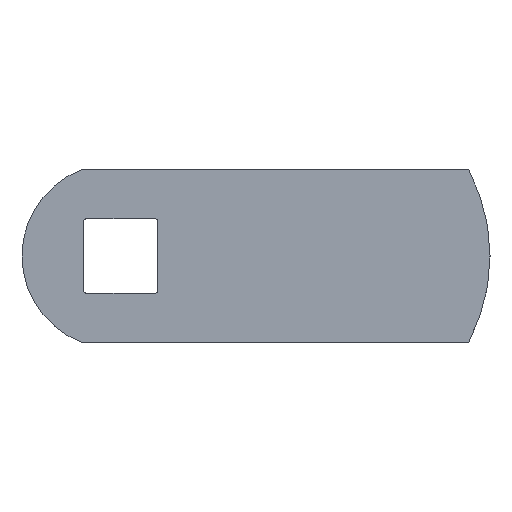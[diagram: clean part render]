
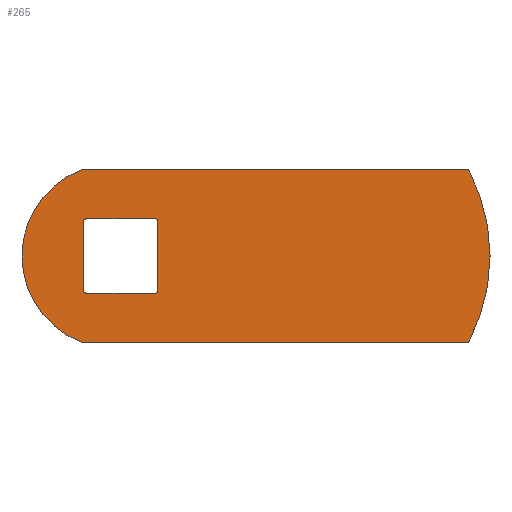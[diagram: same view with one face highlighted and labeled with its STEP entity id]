
A CAD part, top view. The second image highlights one B-rep face of the part: STEP entity #265.
In plain terms, the highlighted planar face has unit normal (0, 0, 1).
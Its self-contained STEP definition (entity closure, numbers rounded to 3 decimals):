
#15=FACE_BOUND('',#52,.T.);
#23=PLANE('',#293);
#37=FACE_OUTER_BOUND('',#51,.T.);
#51=EDGE_LOOP('',(#223,#224,#225,#226));
#52=EDGE_LOOP('',(#227,#228,#229,#230,#231,#232,#233,#234));
#59=LINE('',#388,#83);
#63=LINE('',#400,#87);
#67=LINE('',#412,#91);
#69=LINE('',#420,#93);
#73=LINE('',#433,#97);
#77=LINE('',#444,#101);
#83=VECTOR('',#309,5.625);
#87=VECTOR('',#321,5.625);
#91=VECTOR('',#333,5.625);
#93=VECTOR('',#343,5.625);
#97=VECTOR('',#355,31.459);
#101=VECTOR('',#367,31.459);
#104=CIRCLE('',#271,0.2);
#106=CIRCLE('',#275,0.2);
#108=CIRCLE('',#279,0.2);
#110=CIRCLE('',#283,0.2);
#111=CIRCLE('',#286,15.);
#113=CIRCLE('',#290,7.5);
#117=VERTEX_POINT('',#378);
#118=VERTEX_POINT('',#380);
#120=VERTEX_POINT('',#386);
#122=VERTEX_POINT('',#392);
#124=VERTEX_POINT('',#398);
#126=VERTEX_POINT('',#404);
#128=VERTEX_POINT('',#410);
#130=VERTEX_POINT('',#416);
#131=VERTEX_POINT('',#423);
#132=VERTEX_POINT('',#424);
#135=VERTEX_POINT('',#432);
#137=VERTEX_POINT('',#438);
#141=EDGE_CURVE('',#117,#118,#104,.T.);
#145=EDGE_CURVE('',#117,#120,#59,.T.);
#148=EDGE_CURVE('',#122,#120,#106,.T.);
#151=EDGE_CURVE('',#122,#124,#63,.T.);
#154=EDGE_CURVE('',#126,#124,#108,.T.);
#157=EDGE_CURVE('',#126,#128,#67,.T.);
#160=EDGE_CURVE('',#130,#128,#110,.T.);
#161=EDGE_CURVE('',#130,#118,#69,.T.);
#163=EDGE_CURVE('',#131,#132,#111,.T.);
#167=EDGE_CURVE('',#132,#135,#73,.T.);
#170=EDGE_CURVE('',#135,#137,#113,.T.);
#173=EDGE_CURVE('',#137,#131,#77,.T.);
#223=ORIENTED_EDGE('',*,*,#163,.F.);
#224=ORIENTED_EDGE('',*,*,#173,.F.);
#225=ORIENTED_EDGE('',*,*,#170,.F.);
#226=ORIENTED_EDGE('',*,*,#167,.F.);
#227=ORIENTED_EDGE('',*,*,#145,.T.);
#228=ORIENTED_EDGE('',*,*,#148,.F.);
#229=ORIENTED_EDGE('',*,*,#151,.T.);
#230=ORIENTED_EDGE('',*,*,#154,.F.);
#231=ORIENTED_EDGE('',*,*,#157,.T.);
#232=ORIENTED_EDGE('',*,*,#160,.F.);
#233=ORIENTED_EDGE('',*,*,#161,.T.);
#234=ORIENTED_EDGE('',*,*,#141,.F.);
#265=ADVANCED_FACE('',(#37,#15),#23,.T.);
#271=AXIS2_PLACEMENT_3D('',#381,#302,#303);
#275=AXIS2_PLACEMENT_3D('',#394,#315,#316);
#279=AXIS2_PLACEMENT_3D('',#406,#327,#328);
#283=AXIS2_PLACEMENT_3D('',#418,#339,#340);
#286=AXIS2_PLACEMENT_3D('',#425,#347,#348);
#290=AXIS2_PLACEMENT_3D('',#439,#360,#361);
#293=AXIS2_PLACEMENT_3D('',#446,#369,#370);
#302=DIRECTION('center_axis',(0.,0.,1.));
#303=DIRECTION('ref_axis',(0.707,0.707,0.));
#309=DIRECTION('',(0.,-1.,0.));
#315=DIRECTION('center_axis',(0.,0.,1.));
#316=DIRECTION('ref_axis',(0.707,-0.707,0.));
#321=DIRECTION('',(-1.,0.,0.));
#327=DIRECTION('center_axis',(0.,0.,1.));
#328=DIRECTION('ref_axis',(-0.707,-0.707,0.));
#333=DIRECTION('',(0.,1.,0.));
#339=DIRECTION('center_axis',(0.,0.,1.));
#340=DIRECTION('ref_axis',(-0.707,0.707,0.));
#343=DIRECTION('',(1.,0.,0.));
#347=DIRECTION('center_axis',(0.,0.,-1.));
#348=DIRECTION('ref_axis',(-0.884,0.467,0.));
#355=DIRECTION('',(-1.,0.,0.));
#360=DIRECTION('center_axis',(0.,0.,-1.));
#361=DIRECTION('ref_axis',(0.359,-0.933,0.));
#367=DIRECTION('',(1.,0.,0.));
#369=DIRECTION('center_axis',(0.,0.,1.));
#370=DIRECTION('ref_axis',(1.,0.,0.));
#378=CARTESIAN_POINT('',(3.013,2.813,2.5));
#380=CARTESIAN_POINT('',(2.813,3.013,2.5));
#381=CARTESIAN_POINT('Origin',(2.813,2.813,2.5));
#386=CARTESIAN_POINT('',(3.013,-2.813,2.5));
#388=CARTESIAN_POINT('',(3.013,1.506,2.5));
#392=CARTESIAN_POINT('',(2.813,-3.013,2.5));
#394=CARTESIAN_POINT('Origin',(2.813,-2.813,2.5));
#398=CARTESIAN_POINT('',(-2.813,-3.013,2.5));
#400=CARTESIAN_POINT('',(7.301,-3.013,2.5));
#404=CARTESIAN_POINT('',(-3.013,-2.813,2.5));
#406=CARTESIAN_POINT('Origin',(-2.813,-2.813,2.5));
#410=CARTESIAN_POINT('',(-3.013,2.813,2.5));
#412=CARTESIAN_POINT('',(-3.013,-1.506,2.5));
#416=CARTESIAN_POINT('',(-2.813,3.013,2.5));
#418=CARTESIAN_POINT('Origin',(-2.813,2.813,2.5));
#420=CARTESIAN_POINT('',(4.288,3.013,2.5));
#423=CARTESIAN_POINT('',(28.266,7.,2.5));
#424=CARTESIAN_POINT('',(28.266,-7.,2.5));
#425=CARTESIAN_POINT('Origin',(15.,0.,2.5));
#432=CARTESIAN_POINT('',(-3.193,-7.,2.5));
#433=CARTESIAN_POINT('',(28.266,-7.,2.5));
#438=CARTESIAN_POINT('',(-3.193,7.,2.5));
#439=CARTESIAN_POINT('Origin',(-0.5,0.,2.5));
#444=CARTESIAN_POINT('',(-3.193,7.,2.5));
#446=CARTESIAN_POINT('Origin',(11.589,0.,2.5));
